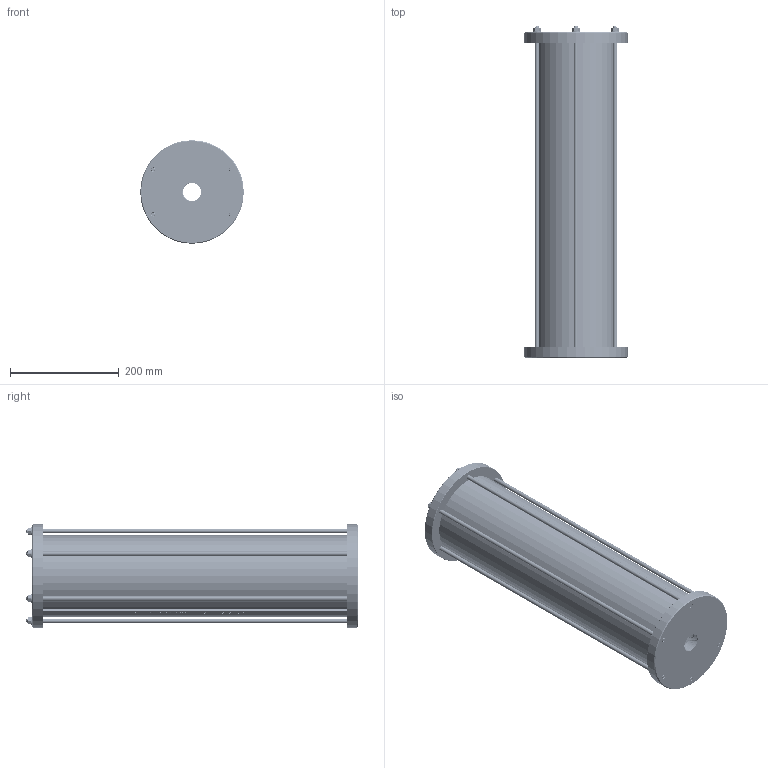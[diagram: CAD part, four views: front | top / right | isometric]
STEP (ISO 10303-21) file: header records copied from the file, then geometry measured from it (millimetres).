
FILE_DESCRIPTION (( 'STEP AP214' ), '1' );
FILE_NAME ('7.5LTR-C-11-34 - Compact.STEP', '2025-08-22T08:58:54', ( '' ), ( '' ), 'SwSTEP 2.0', 'SolidWorks 2024', '' );
FILE_SCHEMA (( 'AUTOMOTIVE_DESIGN' ));
Length unit declared in the file: millimetre
Products named in the file (1): 7.5LTR-C-11-34 - Compact
Bounding box: 190 x 609 x 190 mm (x, y, z)
Volume: 2561354.7 mm3; surface area: 802858.6 mm2
Topology: 22 solids, 22 shells, 2105 faces, 5576 edges, 3597 vertices
Faces by surface type: cylinder 919, plane 501, bspline 415, cone 138, sphere 108, torus 24
Entity records: 173992 total; most frequent: CARTESIAN_POINT 105982, ORIENTED_EDGE 11152, DIRECTION 7061, EDGE_CURVE 5576, VERTEX_POINT 3597, AXIS2_PLACEMENT_3D 2404, VECTOR 2253, LINE 2253
